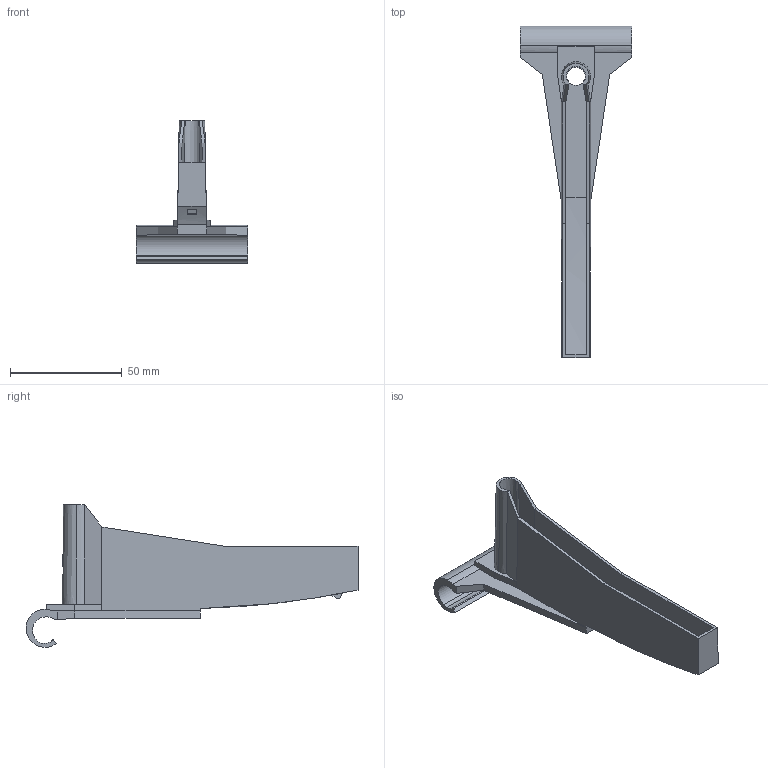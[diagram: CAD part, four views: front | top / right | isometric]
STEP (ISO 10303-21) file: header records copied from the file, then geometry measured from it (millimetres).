
FILE_DESCRIPTION (( 'STEP AP214' ), '1' );
FILE_NAME ('Magic Optima Profil-Halter Variowing.STEP', '2010-08-17T12:25:12', ( 'grass' ), ( '' ), 'SwSTEP 2.0', 'SolidWorks 2010', '' );
FILE_SCHEMA (( 'AUTOMOTIVE_DESIGN' ));
Length unit declared in the file: millimetre
Products named in the file (1): Magic Optima Profil-Halter Variowing
Bounding box: 50 x 148.5 x 63.75 mm (x, y, z)
Volume: 22566 mm3; surface area: 26049.3 mm2
Topology: 1 solids, 1 shells, 61 faces, 169 edges, 110 vertices
Faces by surface type: plane 43, cylinder 12, cone 6
Entity records: 1984 total; most frequent: CARTESIAN_POINT 374, ORIENTED_EDGE 338, DIRECTION 321, EDGE_CURVE 169, LINE 123, VECTOR 123, VERTEX_POINT 110, AXIS2_PLACEMENT_3D 99
